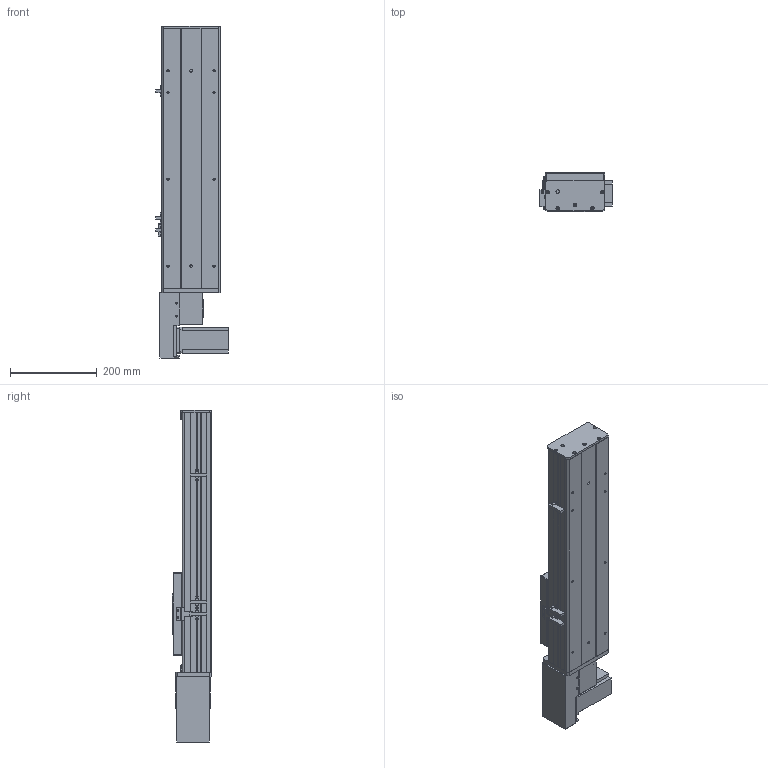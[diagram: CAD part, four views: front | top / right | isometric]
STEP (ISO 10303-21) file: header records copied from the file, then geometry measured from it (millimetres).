
FILE_DESCRIPTION (( 'STEP AP203' ), '1' );
FILE_NAME ('Y135CB-D90-S300-BR-P400W.STEP', '2020-02-18T02:09:31', ( '微软用户' ), ( '微软中国' ), 'SwSTEP 2.0', 'SolidWorks 2017', '' );
FILE_SCHEMA (( 'CONFIG_CONTROL_DESIGN' ));
Length unit declared in the file: millimetre
Products named in the file (18): 5CB --掛极耜裔啣-; C-詩湍揤踡え-陔; 135CB--詩湍-CE; Y100-135俋离換覜ん--; Y135CB-耜裔; Y135C-陔俋离換覜結え-; 0B-埴倛裔啣; 135CB---遴掛极.-; 5C--俋欶; 0B-源倛裔啣; 35CB---喘謫眊楊擘啣; C-雄赽釱--; 0B-萇儂楊擘啣; Y10B-耜蚾蟀諉啣----; Y10B--々湍喘謫眊--666; san松下电机400不带刹车----; Y俋欶BR----; Y135CB-D90-S300-BR-P400W
Assembly tree (21 placements, depth 2):
  Y135CB-D90-S300-BR-P400W
    Y135CB-耜裔
    135CB---遴掛极.-
    35CB---喘謫眊楊擘啣
    Y10B-耜蚾蟀諉啣----
    Y俋欶BR----
    0B-埴倛裔啣
    0B-源倛裔啣
    0B-萇儂楊擘啣
    san松下电机400不带刹车----
    5CB --掛极耜裔啣-  x2
    C-詩湍揤踡え-陔  x2
    135CB--詩湍-CE
    Y100-135俋离換覜ん--  x3
    Y135C-陔俋离換覜結え-
    5C--俋欶
    C-雄赽釱--
    Y10B--々湍喘謫眊--666
Bounding box: 167.5 x 91 x 764.5 mm (x, y, z)
Volume: 2569350.6 mm3; surface area: 987611.7 mm2
Topology: 21 solids, 21 shells, 933 faces, 2473 edges, 1638 vertices
Faces by surface type: cylinder 459, plane 458, cone 16
Entity records: 28735 total; most frequent: DIRECTION 4769, CARTESIAN_POINT 4680, ORIENTED_EDGE 4422, EDGE_CURVE 2211, AXIS2_PLACEMENT_3D 1731, VERTEX_POINT 1466, VECTOR 1307, LINE 1307
